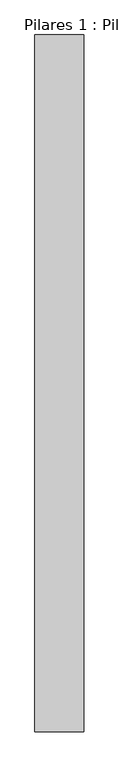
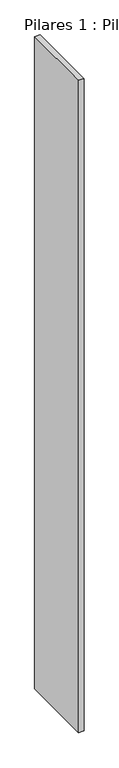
"""IFC4 building model written with IfcOpenShell, lengths in millimetres: column geometry, Pilares 1 : Pilares 1."""

from ifc_helpers import new_model, si_unit, frame, origin, place, context, project, spatial, polyline, outline, extrude, source, transform, mapped, element, save


def pilares_1_pilares_1_aa8b5e75(model_context):
    return source(origin(), model_context, "Body", "SweptSolid", [
        extrude(outline(polyline([(34153.8589874, 25532.4819737), (34153.8589874, 23100.9402233), (33983.8589874, 23100.9402233), (33983.8589874, 25532.4819737), (34153.8589874, 25532.4819737)])), frame((0.0, 0.0, -7250.0), z_axis=(0.0, 0.0, 1.0), x_axis=(1.0, 0.0, 0.0)), (0.0, 0.0, 1.0), 21970.0),
    ])


if __name__ == "__main__":
    model = new_model("IFC4")
    model_context = context("Model", 3, world=origin())
    ifc_project = project(units=[si_unit("LENGTHUNIT", "METRE", prefix="MILLI")], contexts=[model_context])
    site = spatial("IfcSite", under=ifc_project)
    building = spatial("IfcBuilding", under=site)
    placement = place(None, origin())
    pilares_1_pilares_1_shape = pilares_1_pilares_1_aa8b5e75(model_context)
    element("IfcColumn", 1, ObjectType="Pilares 1 : Pilares 1", at=placement, inside=building, context=model_context, shape_type="MappedRepresentation", body=[
        mapped(pilares_1_pilares_1_shape, transform((0.0, 0.0, 0.0), x_axis=(1.0, 0.0, 0.0), y_axis=(0.0, 1.0, 0.0), z_axis=(0.0, 0.0, 1.0))),
    ])
    save(model, "model.ifc")
